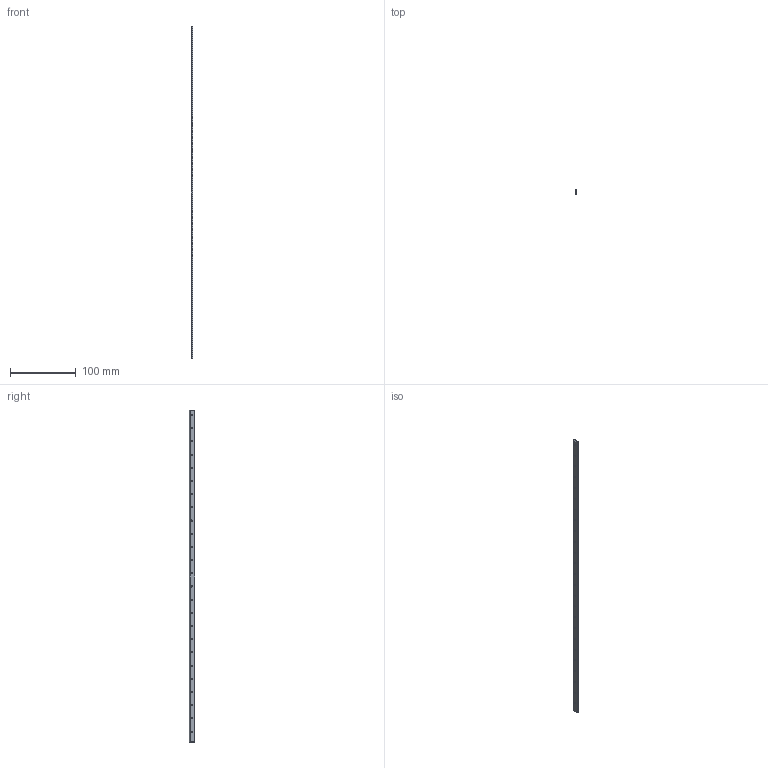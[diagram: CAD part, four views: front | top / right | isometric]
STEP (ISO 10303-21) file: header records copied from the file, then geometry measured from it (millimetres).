
FILE_DESCRIPTION (( 'STEP AP214' ), '1' );
FILE_NAME ('SC79.STEP', '2016-02-26T10:52:48', ( '' ), ( '' ), 'SwSTEP 2.0', 'SolidWorks 2012', '' );
FILE_SCHEMA (( 'AUTOMOTIVE_DESIGN' ));
Length unit declared in the file: millimetre
Products named in the file (1): SC79
Bounding box: 2 x 8 x 503.3 mm (x, y, z)
Volume: 7693.3 mm3; surface area: 9942.8 mm2
Topology: 1 solids, 1 shells, 59 faces, 169 edges, 112 vertices
Faces by surface type: cylinder 50, plane 9
Entity records: 2121 total; most frequent: DIRECTION 389, CARTESIAN_POINT 341, ORIENTED_EDGE 338, EDGE_CURVE 169, AXIS2_PLACEMENT_3D 160, VERTEX_POINT 112, EDGE_LOOP 109, CIRCLE 100
